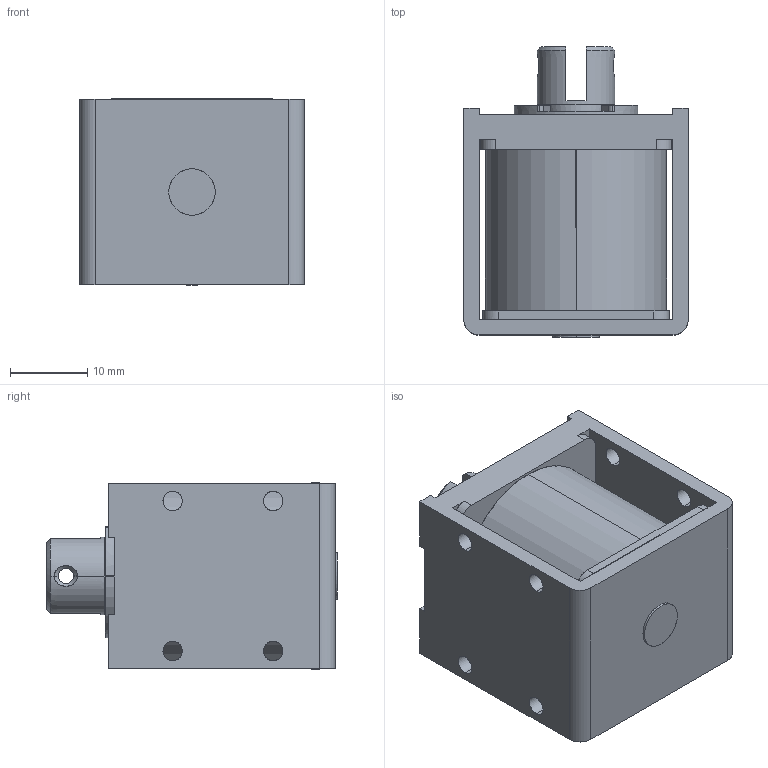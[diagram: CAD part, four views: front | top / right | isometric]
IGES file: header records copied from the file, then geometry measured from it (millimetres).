
Start section: SolidWorks IGES file using analytic representation for surfaces
Global section: file name: L:\カタログ\web用3Dデータ\CA1029\3D_CA1029\w_ca1029.IGS; native system: SolidWorks 2014; preprocessor: SolidWorks 2014; author: jiba; date: 140714.105609; units: millimetre
Bounding box: 29 x 37.6 x 24.1 mm (x, y, z)
Surface area: 9337.9 mm2 (no closed solid volume)
Topology: 0 solids, 0 shells, 139 faces, 2311 edges, 2311 vertices
Faces by surface type: revolution 77, bspline 62
